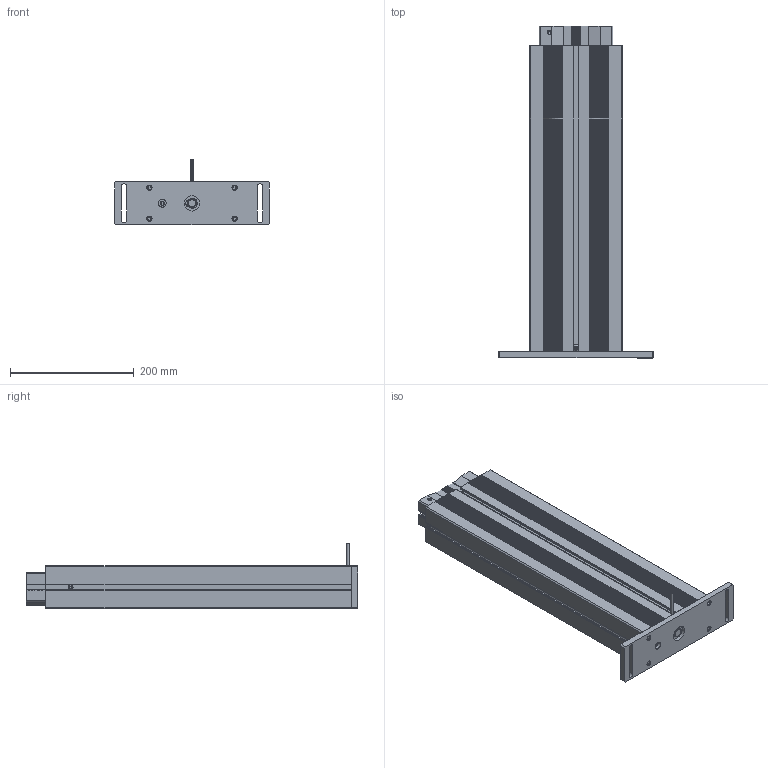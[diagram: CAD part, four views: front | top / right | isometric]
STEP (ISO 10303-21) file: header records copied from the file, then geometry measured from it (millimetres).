
FILE_DESCRIPTION(/* description */ ('Unknown'),/* implementation_level */ '2;1');
FILE_NAME(/* name */ '306.00813_03_eingefahren',/* time_stamp */ '2019-03-11T17:32:36+01:00',/* author */ ('Unknown'),/* organization */ ('Unknown'),/* preprocessor_version */ 'ST-DEVELOPER v16.7',/* originating_system */ 'DEX',/* authorisation */ $);
FILE_SCHEMA (('AUTOMOTIVE_DESIGN {1 0 10303 214 3 1 1}'));
Products named in the file (16): 306.00813; 115.00073_oa_0; 119.00314; 119.00315; 142.00188; 113.00002_70mm; 124.00123; 142.00166; 109.00024_oa_1; 142.00021; 125.00021; 115.00008_oa_2; 125.00063; 126.00147; 143.00047; 142.00031
Assembly tree (19 placements, depth 3):
  306.00813
    115.00073_oa_0
      119.00314
      119.00315
      142.00188  x2
    113.00002_70mm
    124.00123
    142.00166  x4
    109.00024_oa_1
      142.00021
      125.00021
      115.00008_oa_2
      125.00063
    126.00147
    143.00047
    142.00031
Bounding box: 250 x 537 x 106.5 mm (x, y, z)
Volume: 2267996.1 mm3; surface area: 1072721.8 mm2
Topology: 16 solids, 16 shells, 2356 faces, 6894 edges, 4589 vertices
Faces by surface type: plane 1321, cylinder 1000, cone 21, torus 12, bspline 1, sphere 1
Full cylindrical faces by diameter (mm): 1.8 x2, 2.2 x1, 3 x1, 3.242 x2, 3.4 x1, 3.5 x1, 4 x3, 4.1 x1, 4.2 x1, 5 x5, 5.5 x4, 6.6 x1, 6.917 x2, 8 x5, 8.5 x4, 8.7 x4, 10 x1, 12.5 x2, 13 x2, 13.5 x1, 14.4 x1, 17.9 x2, 25 x1, 30 x2
Entity records: 87262 total; most frequent: CARTESIAN_POINT 14204, ORIENTED_EDGE 13400, DIRECTION 13122, EDGE_CURVE 6700, VERTEX_POINT 4499, LINE 4482, VECTOR 4482, AXIS2_PLACEMENT_3D 4320
